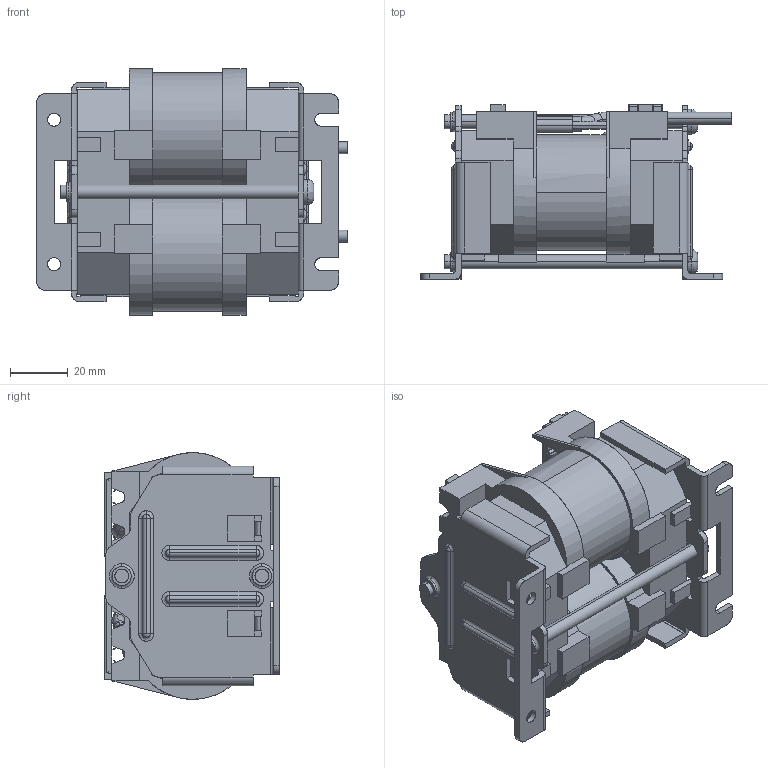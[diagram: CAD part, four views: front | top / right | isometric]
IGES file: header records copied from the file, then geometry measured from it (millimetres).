
Start section: SolidWorks IGES file using analytic representation for surfaces
Bounding box: 107.5 x 60.4 x 85.4 mm (x, y, z)
Surface area: 85099.9 mm2 (no closed solid volume)
Topology: 0 solids, 0 shells, 802 faces, 9338 edges, 9315 vertices
Faces by surface type: bspline 512, revolution 290
